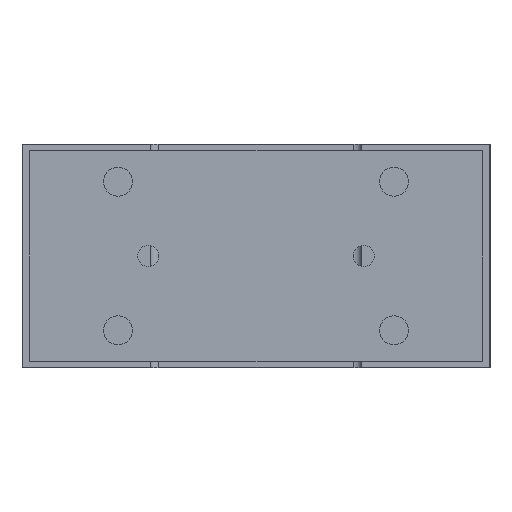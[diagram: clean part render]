
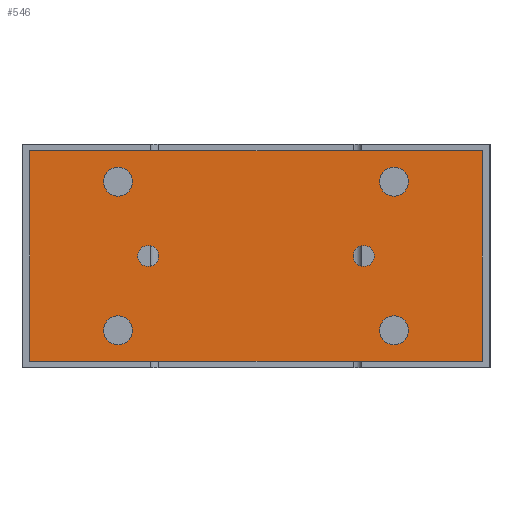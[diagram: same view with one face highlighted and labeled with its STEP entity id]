
A CAD part, left-side view. The second image highlights one B-rep face of the part: STEP entity #546.
In plain terms, the highlighted planar face has unit normal (-1, 0, 0).
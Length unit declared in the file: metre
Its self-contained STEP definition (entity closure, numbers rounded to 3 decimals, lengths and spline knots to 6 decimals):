
#546 = ADVANCED_FACE( '', ( #1253, #1254, #1255, #1256, #1257, #1258, #1259 ), #1260, .T. );
#1253 = FACE_BOUND( '', #2053, .T. );
#1254 = FACE_BOUND( '', #2054, .T. );
#1255 = FACE_BOUND( '', #2055, .T. );
#1256 = FACE_BOUND( '', #2056, .T. );
#1257 = FACE_BOUND( '', #2057, .T. );
#1258 = FACE_BOUND( '', #2058, .T. );
#1259 = FACE_OUTER_BOUND( '', #2059, .T. );
#1260 = PLANE( '', #2060 );
#2053 = EDGE_LOOP( '', ( #3379 ) );
#2054 = EDGE_LOOP( '', ( #3380 ) );
#2055 = EDGE_LOOP( '', ( #3381 ) );
#2056 = EDGE_LOOP( '', ( #3382 ) );
#2057 = EDGE_LOOP( '', ( #3383 ) );
#2058 = EDGE_LOOP( '', ( #3384 ) );
#2059 = EDGE_LOOP( '', ( #3385, #3386, #3387, #3388 ) );
#2060 = AXIS2_PLACEMENT_3D( '', #3389, #3390, #3391 );
#3379 = ORIENTED_EDGE( '', *, *, #3807, .F. );
#3380 = ORIENTED_EDGE( '', *, *, #4205, .F. );
#3381 = ORIENTED_EDGE( '', *, *, #3842, .F. );
#3382 = ORIENTED_EDGE( '', *, *, #4216, .F. );
#3383 = ORIENTED_EDGE( '', *, *, #4114, .F. );
#3384 = ORIENTED_EDGE( '', *, *, #4285, .T. );
#3385 = ORIENTED_EDGE( '', *, *, #3998, .T. );
#3386 = ORIENTED_EDGE( '', *, *, #4286, .T. );
#3387 = ORIENTED_EDGE( '', *, *, #4270, .T. );
#3388 = ORIENTED_EDGE( '', *, *, #4287, .T. );
#3389 = CARTESIAN_POINT( '', ( -0.118, -0.086, -0.0025 ) );
#3390 = DIRECTION( '', ( -1., 0., 0. ) );
#3391 = DIRECTION( '', ( 0., 0., 1. ) );
#3807 = EDGE_CURVE( '', #4370, #4370, #4371, .T. );
#3842 = EDGE_CURVE( '', #4432, #4432, #4433, .T. );
#3998 = EDGE_CURVE( '', #4692, #4690, #4693, .T. );
#4114 = EDGE_CURVE( '', #4875, #4875, #4876, .T. );
#4205 = EDGE_CURVE( '', #5008, #5008, #5009, .T. );
#4216 = EDGE_CURVE( '', #5024, #5024, #5025, .T. );
#4270 = EDGE_CURVE( '', #5091, #5089, #5092, .T. );
#4285 = EDGE_CURVE( '', #5112, #5112, #5113, .T. );
#4286 = EDGE_CURVE( '', #4690, #5091, #5114, .T. );
#4287 = EDGE_CURVE( '', #5089, #4692, #5115, .T. );
#4370 = VERTEX_POINT( '', #5201 );
#4371 = CIRCLE( '', #5202, 0.0055 );
#4432 = VERTEX_POINT( '', #5281 );
#4433 = CIRCLE( '', #5282, 0.0055 );
#4690 = VERTEX_POINT( '', #5607 );
#4692 = VERTEX_POINT( '', #5610 );
#4693 = LINE( '', #5611, #5612 );
#4875 = VERTEX_POINT( '', #5860 );
#4876 = CIRCLE( '', #5861, 0.004 );
#5008 = VERTEX_POINT( '', #6094 );
#5009 = CIRCLE( '', #6095, 0.0055 );
#5024 = VERTEX_POINT( '', #6114 );
#5025 = CIRCLE( '', #6115, 0.0055 );
#5089 = VERTEX_POINT( '', #6292 );
#5091 = VERTEX_POINT( '', #6295 );
#5092 = LINE( '', #6296, #6297 );
#5112 = VERTEX_POINT( '', #6326 );
#5113 = CIRCLE( '', #6327, 0.004 );
#5114 = LINE( '', #6328, #6329 );
#5115 = LINE( '', #6330, #6331 );
#5201 = CARTESIAN_POINT( '', ( -0.118, -0.0525, -0.06525 ) );
#5202 = AXIS2_PLACEMENT_3D( '', #6497, #6498, #6499 );
#5281 = CARTESIAN_POINT( '', ( -0.118, -0.0525, -0.00875 ) );
#5282 = AXIS2_PLACEMENT_3D( '', #6542, #6543, #6544 );
#5607 = CARTESIAN_POINT( '', ( -0.118, -0.086, -0.0025 ) );
#5610 = CARTESIAN_POINT( '', ( -0.118, -0.086, -0.0825 ) );
#5611 = CARTESIAN_POINT( '', ( -0.118, -0.086, -0.0825 ) );
#5612 = VECTOR( '', #6749, 1. );
#5860 = CARTESIAN_POINT( '', ( -0.118, -0.037, -0.0425 ) );
#5861 = AXIS2_PLACEMENT_3D( '', #6921, #6922, #6923 );
#6094 = CARTESIAN_POINT( '', ( -0.118, 0.0525, -0.06525 ) );
#6095 = AXIS2_PLACEMENT_3D( '', #7019, #7020, #7021 );
#6114 = CARTESIAN_POINT( '', ( -0.118, 0.0525, -0.00875 ) );
#6115 = AXIS2_PLACEMENT_3D( '', #7032, #7033, #7034 );
#6292 = CARTESIAN_POINT( '', ( -0.118, 0.086, -0.0825 ) );
#6295 = CARTESIAN_POINT( '', ( -0.118, 0.086, -0.0025 ) );
#6296 = CARTESIAN_POINT( '', ( -0.118, 0.086, -0.0025 ) );
#6297 = VECTOR( '', #7068, 1. );
#6326 = CARTESIAN_POINT( '', ( -0.118, 0.037, -0.0425 ) );
#6327 = AXIS2_PLACEMENT_3D( '', #7078, #7079, #7080 );
#6328 = CARTESIAN_POINT( '', ( -0.118, -0.086, -0.0025 ) );
#6329 = VECTOR( '', #7081, 1. );
#6330 = CARTESIAN_POINT( '', ( -0.118, 0.086, -0.0825 ) );
#6331 = VECTOR( '', #7082, 1. );
#6497 = CARTESIAN_POINT( '', ( -0.118, -0.0525, -0.07075 ) );
#6498 = DIRECTION( '', ( -1., 0., 0. ) );
#6499 = DIRECTION( '', ( 0., 0., 1. ) );
#6542 = CARTESIAN_POINT( '', ( -0.118, -0.0525, -0.01425 ) );
#6543 = DIRECTION( '', ( -1., 0., 0. ) );
#6544 = DIRECTION( '', ( 0., 0., 1. ) );
#6749 = DIRECTION( '', ( 0., 0., 1. ) );
#6921 = CARTESIAN_POINT( '', ( -0.118, -0.041, -0.0425 ) );
#6922 = DIRECTION( '', ( -1., 0., 0. ) );
#6923 = DIRECTION( '', ( 0., 1., 0. ) );
#7019 = CARTESIAN_POINT( '', ( -0.118, 0.0525, -0.07075 ) );
#7020 = DIRECTION( '', ( -1., 0., 0. ) );
#7021 = DIRECTION( '', ( 0., 0., 1. ) );
#7032 = CARTESIAN_POINT( '', ( -0.118, 0.0525, -0.01425 ) );
#7033 = DIRECTION( '', ( -1., 0., 0. ) );
#7034 = DIRECTION( '', ( 0., 0., 1. ) );
#7068 = DIRECTION( '', ( 0., 0., -1. ) );
#7078 = CARTESIAN_POINT( '', ( -0.118, 0.041, -0.0425 ) );
#7079 = DIRECTION( '', ( 1., 0., 0. ) );
#7080 = DIRECTION( '', ( 0., -1., 0. ) );
#7081 = DIRECTION( '', ( 0., 1., 0. ) );
#7082 = DIRECTION( '', ( 0., -1., 0. ) );
